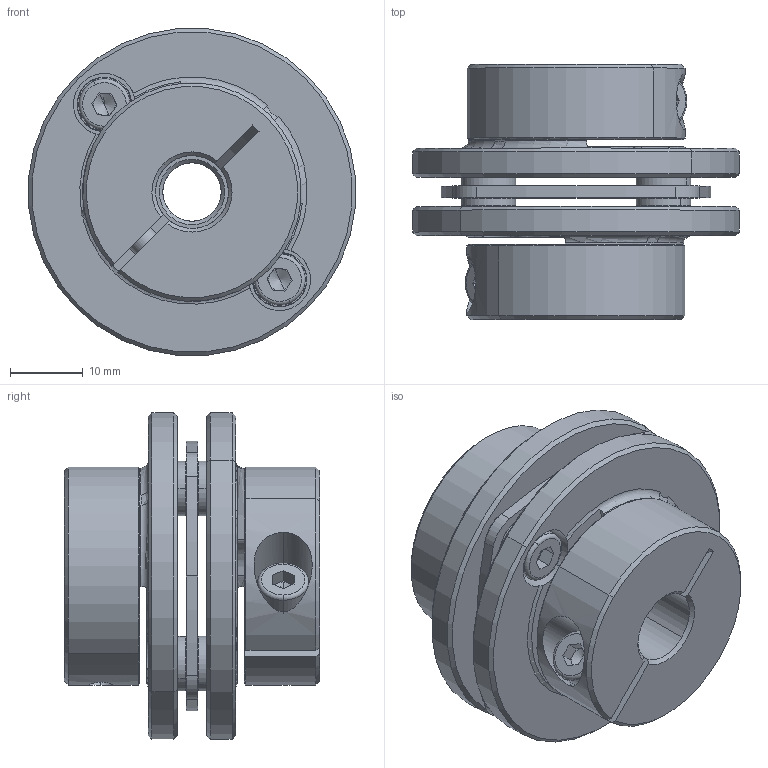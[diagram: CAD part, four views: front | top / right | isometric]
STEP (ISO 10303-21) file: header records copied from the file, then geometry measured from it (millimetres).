
FILE_DESCRIPTION (( 'STEP AP203' ), '1' );
FILE_NAME ('LE1-B-D45L35-8-10.STEP', '2021-11-01T03:05:02', ( '' ), ( '' ), 'SwSTEP 2.0', 'SolidWorks 2018', '' );
FILE_SCHEMA (( 'CONFIG_CONTROL_DESIGN' ));
Length unit declared in the file: millimetre
Products named in the file (1): LE1-B-D45L35-8-10
Bounding box: 44.83 x 35 x 44.83 mm (x, y, z)
Volume: 26466.5 mm3; surface area: 15933.9 mm2
Topology: 1 solids, 13 shells, 405 faces, 991 edges, 614 vertices
Faces by surface type: plane 136, cylinder 135, cone 114, torus 18, bspline 2
Entity records: 12432 total; most frequent: CARTESIAN_POINT 2479, DIRECTION 2247, ORIENTED_EDGE 1958, EDGE_CURVE 979, AXIS2_PLACEMENT_3D 914, VERTEX_POINT 614, CIRCLE 510, EDGE_LOOP 469
